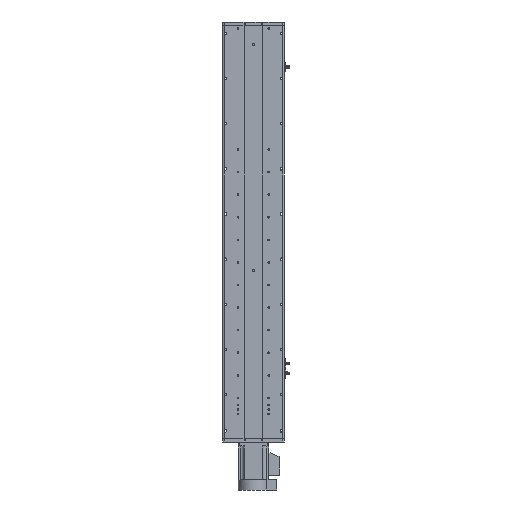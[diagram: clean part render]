
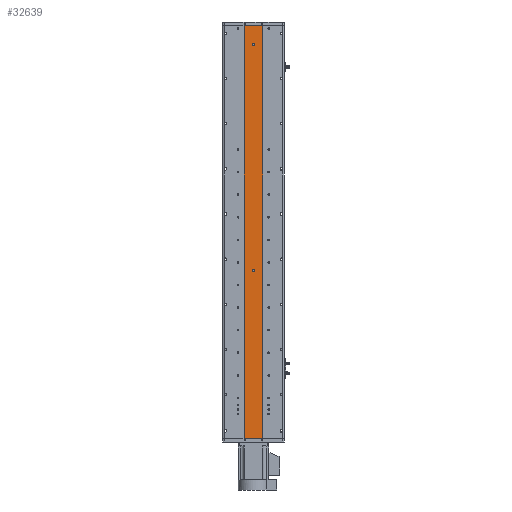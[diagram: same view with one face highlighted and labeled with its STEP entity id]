
A CAD part, front view. The second image highlights one B-rep face of the part: STEP entity #32639.
In plain terms, the highlighted planar face has unit normal (0, -1, 0).
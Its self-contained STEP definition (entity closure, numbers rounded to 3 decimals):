
#1186 = VERTEX_POINT ( 'NONE', #12541 ) ;
#1226 = EDGE_CURVE ( 'NONE', #36537, #18972, #30473, .T. ) ;
#1237 = EDGE_CURVE ( 'NONE', #36537, #26679, #22408, .T. ) ;
#3562 = DIRECTION ( 'NONE',  ( 0., -1., 0. ) ) ;
#3638 = EDGE_CURVE ( 'NONE', #33608, #38891, #12779, .T. ) ;
#4433 = FACE_BOUND ( 'NONE', #20261, .T. ) ;
#4939 = DIRECTION ( 'NONE',  ( 0., -1., 0. ) ) ;
#5609 = DIRECTION ( 'NONE',  ( 0., 1., 0. ) ) ;
#5806 = CARTESIAN_POINT ( 'NONE',  ( 25., 1., 548. ) ) ;
#6187 = ORIENTED_EDGE ( 'NONE', *, *, #15448, .F. ) ;
#6562 = CARTESIAN_POINT ( 'NONE',  ( 25., 1., 548. ) ) ;
#6936 = CARTESIAN_POINT ( 'NONE',  ( -25., 1., 548. ) ) ;
#7056 = CARTESIAN_POINT ( 'NONE',  ( 25., 1., -548. ) ) ;
#7169 = DIRECTION ( 'NONE',  ( 0., -1., 0. ) ) ;
#8812 = CARTESIAN_POINT ( 'NONE',  ( 0., 1., 498. ) ) ;
#10046 = AXIS2_PLACEMENT_3D ( 'NONE', #25406, #7169, #28448 ) ;
#11837 = LINE ( 'NONE', #22258, #26138 ) ;
#11851 = DIRECTION ( 'NONE',  ( 0., 0., -1. ) ) ;
#11930 = ORIENTED_EDGE ( 'NONE', *, *, #15307, .F. ) ;
#12326 = EDGE_LOOP ( 'NONE', ( #29833, #17783, #28377, #39166 ) ) ;
#12529 = FACE_OUTER_BOUND ( 'NONE', #12326, .T. ) ;
#12541 = CARTESIAN_POINT ( 'NONE',  ( 0., 1., -99. ) ) ;
#12779 = CIRCLE ( 'NONE', #10046, 3. ) ;
#13587 = AXIS2_PLACEMENT_3D ( 'NONE', #8812, #30064, #11851 ) ;
#15307 = EDGE_CURVE ( 'NONE', #1186, #31468, #20758, .T. ) ;
#15448 = EDGE_CURVE ( 'NONE', #38891, #33608, #20259, .T. ) ;
#16404 = ORIENTED_EDGE ( 'NONE', *, *, #3638, .F. ) ;
#16919 = ORIENTED_EDGE ( 'NONE', *, *, #18776, .F. ) ;
#17783 = ORIENTED_EDGE ( 'NONE', *, *, #35809, .F. ) ;
#17956 = AXIS2_PLACEMENT_3D ( 'NONE', #21830, #3562, #24899 ) ;
#18264 = EDGE_CURVE ( 'NONE', #18972, #28504, #11837, .T. ) ;
#18474 = AXIS2_PLACEMENT_3D ( 'NONE', #23183, #4939, #26263 ) ;
#18776 = EDGE_CURVE ( 'NONE', #31468, #1186, #37403, .T. ) ;
#18972 = VERTEX_POINT ( 'NONE', #34750 ) ;
#20259 = CIRCLE ( 'NONE', #13587, 3. ) ;
#20261 = EDGE_LOOP ( 'NONE', ( #16919, #11930 ) ) ;
#20513 = VECTOR ( 'NONE', #33907, 1000. ) ;
#20659 = FACE_BOUND ( 'NONE', #24045, .T. ) ;
#20758 = CIRCLE ( 'NONE', #18474, 3. ) ;
#20813 = PLANE ( 'NONE',  #35541 ) ;
#21467 = VECTOR ( 'NONE', #27847, 1000. ) ;
#21830 = CARTESIAN_POINT ( 'NONE',  ( 0., 1., -102. ) ) ;
#22258 = CARTESIAN_POINT ( 'NONE',  ( 25., 1., -548. ) ) ;
#22271 = CARTESIAN_POINT ( 'NONE',  ( 0., 1., 495. ) ) ;
#22408 = LINE ( 'NONE', #6562, #20513 ) ;
#23183 = CARTESIAN_POINT ( 'NONE',  ( 0., 1., -102. ) ) ;
#23206 = CARTESIAN_POINT ( 'NONE',  ( 0., 1., 501. ) ) ;
#23889 = CARTESIAN_POINT ( 'NONE',  ( 25., 1., 548. ) ) ;
#24045 = EDGE_LOOP ( 'NONE', ( #16404, #6187 ) ) ;
#24899 = DIRECTION ( 'NONE',  ( 0., 0., -1. ) ) ;
#25406 = CARTESIAN_POINT ( 'NONE',  ( 0., 1., 498. ) ) ;
#25984 = VECTOR ( 'NONE', #27121, 1000. ) ;
#26138 = VECTOR ( 'NONE', #31415, 1000. ) ;
#26263 = DIRECTION ( 'NONE',  ( 0., 0., -1. ) ) ;
#26679 = VERTEX_POINT ( 'NONE', #29009 ) ;
#26927 = DIRECTION ( 'NONE',  ( 0., 0., 1. ) ) ;
#27121 = DIRECTION ( 'NONE',  ( 0., 0., -1. ) ) ;
#27847 = DIRECTION ( 'NONE',  ( 0., 0., -1. ) ) ;
#28377 = ORIENTED_EDGE ( 'NONE', *, *, #1237, .F. ) ;
#28448 = DIRECTION ( 'NONE',  ( 0., 0., -1. ) ) ;
#28504 = VERTEX_POINT ( 'NONE', #7056 ) ;
#29009 = CARTESIAN_POINT ( 'NONE',  ( 25., 1., 548. ) ) ;
#29833 = ORIENTED_EDGE ( 'NONE', *, *, #18264, .T. ) ;
#30064 = DIRECTION ( 'NONE',  ( 0., -1., 0. ) ) ;
#30473 = LINE ( 'NONE', #36827, #21467 ) ;
#31415 = DIRECTION ( 'NONE',  ( 1., 0., 0. ) ) ;
#31468 = VERTEX_POINT ( 'NONE', #34392 ) ;
#32639 = ADVANCED_FACE ( 'NONE', ( #20659, #4433, #12529 ), #20813, .F. ) ;
#33608 = VERTEX_POINT ( 'NONE', #22271 ) ;
#33907 = DIRECTION ( 'NONE',  ( 1., 0., 0. ) ) ;
#34005 = LINE ( 'NONE', #5806, #25984 ) ;
#34392 = CARTESIAN_POINT ( 'NONE',  ( 0., 1., -105. ) ) ;
#34750 = CARTESIAN_POINT ( 'NONE',  ( -25., 1., -548. ) ) ;
#35541 = AXIS2_PLACEMENT_3D ( 'NONE', #23889, #5609, #26927 ) ;
#35809 = EDGE_CURVE ( 'NONE', #26679, #28504, #34005, .T. ) ;
#36537 = VERTEX_POINT ( 'NONE', #6936 ) ;
#36827 = CARTESIAN_POINT ( 'NONE',  ( -25., 1., 548. ) ) ;
#37403 = CIRCLE ( 'NONE', #17956, 3. ) ;
#38891 = VERTEX_POINT ( 'NONE', #23206 ) ;
#39166 = ORIENTED_EDGE ( 'NONE', *, *, #1226, .T. ) ;
